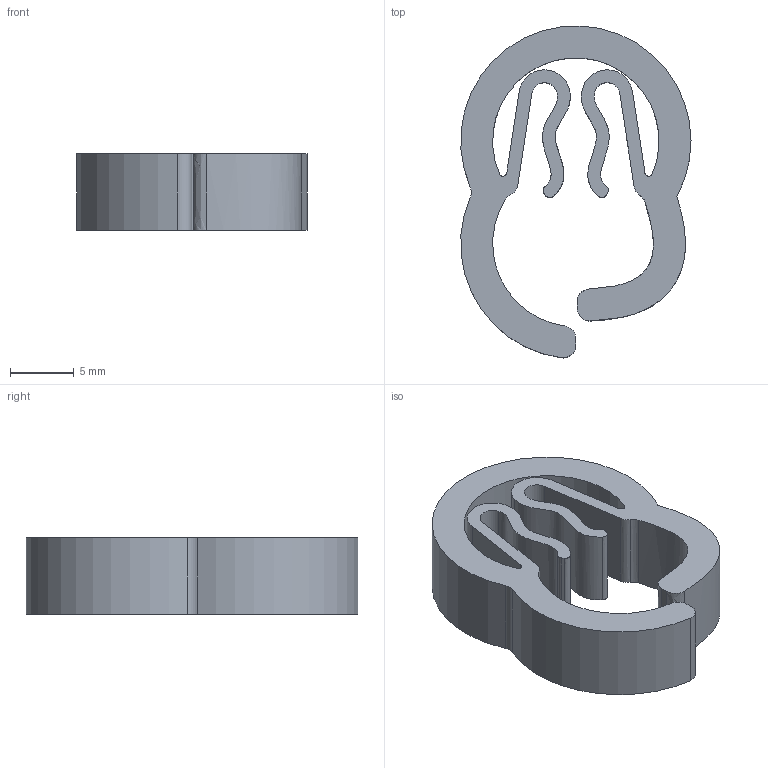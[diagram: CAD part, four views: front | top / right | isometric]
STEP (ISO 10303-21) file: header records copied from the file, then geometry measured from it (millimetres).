
FILE_DESCRIPTION(/* description */ ('','CAx-IF Rec.Pracs.---Representation and Presentation of Product Manufacturing Information (PMI)---4.0---2014-10-13'),/* implementation_level */ '2;1');
FILE_NAME(/* name */ 'Orchideen-Klammer.step',/* time_stamp */ '2025-01-12T18:31:23+01:00',/* author */ (''),/* organization */ (''),/* preprocessor_version */ 'ST-DEVELOPER v20',/* originating_system */ 'Autodesk Translation Framework v13.20.0.188',/* authorisation */ '');
FILE_SCHEMA (('AP242_MANAGED_MODEL_BASED_3D_ENGINEERING_MIM_LF { 1 0 10303 442 1 1 4 }'));
Length unit declared in the file: millimetre
Products named in the file (1): 01_Orchideen-Klammer
Bounding box: 17.98 x 25.93 x 6 mm (x, y, z)
Volume: 1193.3 mm3; surface area: 1657.3 mm2
Topology: 1 solids, 1 shells, 39 faces, 111 edges, 74 vertices
Faces by surface type: cylinder 15, bspline 14, plane 10
Entity records: 1869 total; most frequent: CARTESIAN_POINT 919, ORIENTED_EDGE 222, DIRECTION 149, EDGE_CURVE 111, VERTEX_POINT 74, AXIS2_PLACEMENT_3D 56, B_SPLINE_CURVE_WITH_KNOTS 42, FACE_OUTER_BOUND 39
